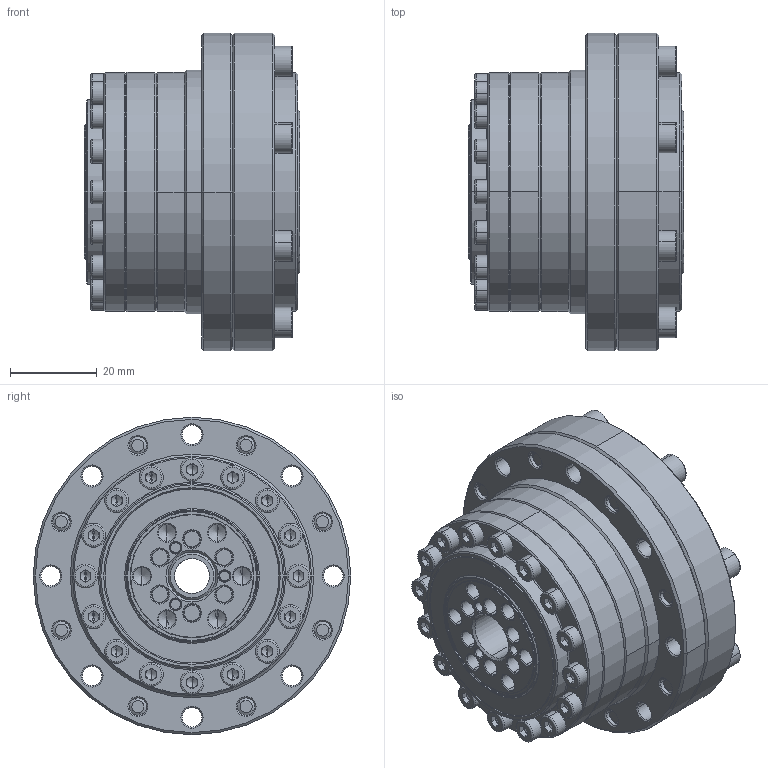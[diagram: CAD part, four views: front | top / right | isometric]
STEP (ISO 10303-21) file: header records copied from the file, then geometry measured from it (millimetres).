
FILE_DESCRIPTION (( 'STEP AP203' ), '1' );
FILE_NAME ('DM-CSG-14-50-1-SP-A057-8-25-30-46-M4.STEP', '2026-01-22T03:24:14', ( 'User' ), ( '' ), 'SwSTEP 2.0', 'SolidWorks 2020', '' );
FILE_SCHEMA (( 'CONFIG_CONTROL_DESIGN' ));
Length unit declared in the file: millimetre
Products named in the file (1): DM-CSG-14-50-1-SP-A057-8-25-30-46-M4
Bounding box: 49.5 x 73 x 73 mm (x, y, z)
Volume: 110325 mm3; surface area: 63426.1 mm2
Topology: 72 solids, 72 shells, 1513 faces, 3466 edges, 2012 vertices
Faces by surface type: plane 468, cone 408, cylinder 403, sphere 120, torus 114
Entity records: 41027 total; most frequent: DIRECTION 7966, CARTESIAN_POINT 6696, ORIENTED_EDGE 6436, AXIS2_PLACEMENT_3D 3238, EDGE_CURVE 3218, VERTEX_POINT 1952, EDGE_LOOP 1782, CIRCLE 1724
